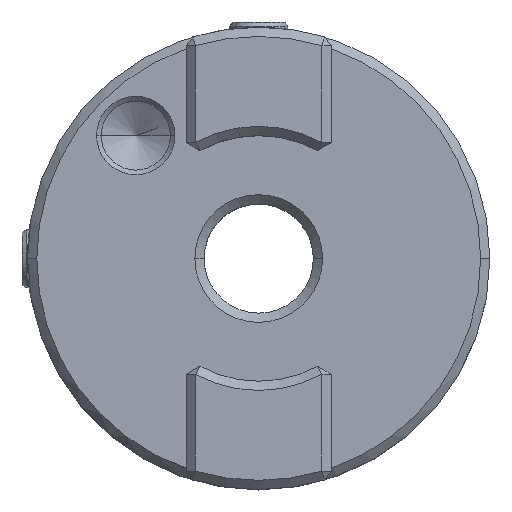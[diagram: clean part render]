
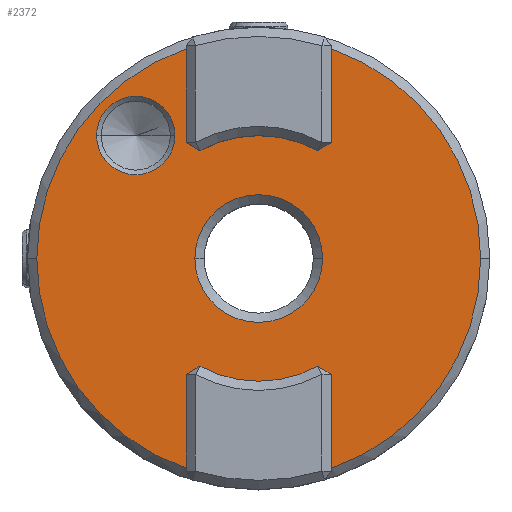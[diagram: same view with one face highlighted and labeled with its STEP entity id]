
A CAD part, top view. The second image highlights one B-rep face of the part: STEP entity #2372.
In plain terms, the highlighted planar face has unit normal (0, 0, 1).
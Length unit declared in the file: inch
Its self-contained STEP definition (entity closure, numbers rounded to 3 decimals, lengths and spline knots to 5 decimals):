
#1151=CARTESIAN_POINT('',(0.,0.,0.39));
#1152=DIRECTION('',(0.,0.,-1.));
#1153=DIRECTION('',(1.,0.,0.));
#1154=AXIS2_PLACEMENT_3D('',#1151,#1152,#1153);
#1160=CARTESIAN_POINT('',(0.,0.,0.39));
#1161=DIRECTION('',(0.,0.,-1.));
#1162=DIRECTION('',(-1.,0.,0.));
#1163=AXIS2_PLACEMENT_3D('',#1160,#1161,#1162);
#1169=DIRECTION('',(-0.86,-0.511,0.));
#1170=VECTOR('',#1169,0.03439);
#1171=CARTESIAN_POINT('',(0.15675,0.25079,0.39));
#1172=LINE('',#1171,#1170);
#1173=DIRECTION('',(0.,-1.,0.));
#1174=VECTOR('',#1173,0.20289);
#1175=CARTESIAN_POINT('',(0.15675,0.45368,0.39));
#1176=LINE('',#1175,#1174);
#1177=CARTESIAN_POINT('',(0.,0.,0.39));
#1178=DIRECTION('',(0.,0.,1.));
#1179=DIRECTION('',(0.327,-0.945,0.));
#1180=AXIS2_PLACEMENT_3D('',#1177,#1178,#1179);
#1182=DIRECTION('',(0.,-1.,0.));
#1183=VECTOR('',#1182,0.20289);
#1184=CARTESIAN_POINT('',(0.15675,-0.25079,0.39));
#1185=LINE('',#1184,#1183);
#1186=DIRECTION('',(0.86,-0.511,0.));
#1187=VECTOR('',#1186,0.03439);
#1188=CARTESIAN_POINT('',(0.12718,-0.23323,0.39));
#1189=LINE('',#1188,#1187);
#1190=CARTESIAN_POINT('',(0.,0.,0.39));
#1191=DIRECTION('',(0.,0.,1.));
#1192=DIRECTION('',(-0.479,-0.878,0.));
#1193=AXIS2_PLACEMENT_3D('',#1190,#1191,#1192);
#1195=DIRECTION('',(0.86,0.511,0.));
#1196=VECTOR('',#1195,0.03439);
#1197=CARTESIAN_POINT('',(-0.15675,-0.25079,0.39));
#1198=LINE('',#1197,#1196);
#1199=DIRECTION('',(0.,1.,0.));
#1200=VECTOR('',#1199,0.20289);
#1201=CARTESIAN_POINT('',(-0.15675,-0.45368,0.39));
#1202=LINE('',#1201,#1200);
#1203=CARTESIAN_POINT('',(0.,0.,0.39));
#1204=DIRECTION('',(0.,0.,1.));
#1205=DIRECTION('',(-1.,0.,0.));
#1206=AXIS2_PLACEMENT_3D('',#1203,#1204,#1205);
#1208=DIRECTION('',(0.,1.,0.));
#1209=VECTOR('',#1208,0.20289);
#1210=CARTESIAN_POINT('',(-0.15675,0.25079,0.39));
#1211=LINE('',#1210,#1209);
#1212=DIRECTION('',(-0.86,0.511,0.));
#1213=VECTOR('',#1212,0.03439);
#1214=CARTESIAN_POINT('',(-0.12718,0.23323,0.39));
#1215=LINE('',#1214,#1213);
#1216=CARTESIAN_POINT('',(0.,0.,0.39));
#1217=DIRECTION('',(0.,0.,1.));
#1218=DIRECTION('',(0.479,0.878,0.));
#1219=AXIS2_PLACEMENT_3D('',#1216,#1217,#1218);
#1221=CARTESIAN_POINT('',(-0.266,0.266,0.39));
#1222=DIRECTION('',(0.,0.,-1.));
#1223=DIRECTION('',(-1.,0.,0.));
#1224=AXIS2_PLACEMENT_3D('',#1221,#1222,#1223);
#1226=CARTESIAN_POINT('',(-0.266,0.266,0.39));
#1227=DIRECTION('',(0.,0.,-1.));
#1228=DIRECTION('',(1.,0.,0.));
#1229=AXIS2_PLACEMENT_3D('',#1226,#1227,#1228);
#1397=CARTESIAN_POINT('',(0.,0.,0.39));
#1398=DIRECTION('',(0.,0.,1.));
#1399=DIRECTION('',(1.,0.,0.));
#1400=AXIS2_PLACEMENT_3D('',#1397,#1398,#1399);
#1407=CARTESIAN_POINT('',(0.,0.,0.39));
#1408=DIRECTION('',(0.,0.,1.));
#1409=DIRECTION('',(-0.327,0.945,0.));
#1410=AXIS2_PLACEMENT_3D('',#1407,#1408,#1409);
#1960=CARTESIAN_POINT('',(0.1381,0.,0.39));
#1961=VERTEX_POINT('',#1960);
#1962=CARTESIAN_POINT('',(-0.1381,0.,0.39));
#1963=VERTEX_POINT('',#1962);
#1964=CARTESIAN_POINT('',(0.15675,0.25079,0.39));
#1965=CARTESIAN_POINT('',(0.12718,0.23323,0.39));
#1966=VERTEX_POINT('',#1964);
#1967=VERTEX_POINT('',#1965);
#1968=CARTESIAN_POINT('',(0.15675,0.45368,0.39));
#1969=VERTEX_POINT('',#1968);
#1970=CARTESIAN_POINT('',(0.48,0.,0.39));
#1971=VERTEX_POINT('',#1970);
#1972=CARTESIAN_POINT('',(0.15675,-0.45368,0.39));
#1973=VERTEX_POINT('',#1972);
#1974=CARTESIAN_POINT('',(0.15675,-0.25079,0.39));
#1975=VERTEX_POINT('',#1974);
#1976=CARTESIAN_POINT('',(0.12718,-0.23323,0.39));
#1977=VERTEX_POINT('',#1976);
#1978=CARTESIAN_POINT('',(-0.12718,-0.23323,0.39));
#1979=VERTEX_POINT('',#1978);
#1980=CARTESIAN_POINT('',(-0.15675,-0.25079,0.39));
#1981=VERTEX_POINT('',#1980);
#1982=CARTESIAN_POINT('',(-0.15675,-0.45368,0.39));
#1983=VERTEX_POINT('',#1982);
#1984=CARTESIAN_POINT('',(-0.48,0.,0.39));
#1985=VERTEX_POINT('',#1984);
#1986=CARTESIAN_POINT('',(-0.15675,0.45368,0.39));
#1987=VERTEX_POINT('',#1986);
#1988=CARTESIAN_POINT('',(-0.15675,0.25079,0.39));
#1989=VERTEX_POINT('',#1988);
#1990=CARTESIAN_POINT('',(-0.12718,0.23323,0.39));
#1991=VERTEX_POINT('',#1990);
#1992=CARTESIAN_POINT('',(-0.35075,0.266,0.39));
#1993=CARTESIAN_POINT('',(-0.18125,0.266,0.39));
#1994=VERTEX_POINT('',#1992);
#1995=VERTEX_POINT('',#1993);
#2327=CARTESIAN_POINT('',(0.,0.,0.39));
#2328=DIRECTION('',(0.,0.,1.));
#2329=DIRECTION('',(1.,0.,0.));
#2330=AXIS2_PLACEMENT_3D('',#2327,#2328,#2329);
#2331=PLANE('',#2330);
#2333=ORIENTED_EDGE('',*,*,#2332,.F.);
#2335=ORIENTED_EDGE('',*,*,#2334,.F.);
#2337=ORIENTED_EDGE('',*,*,#2336,.F.);
#2339=ORIENTED_EDGE('',*,*,#2338,.F.);
#2341=ORIENTED_EDGE('',*,*,#2340,.F.);
#2343=ORIENTED_EDGE('',*,*,#2342,.F.);
#2345=ORIENTED_EDGE('',*,*,#2344,.F.);
#2347=ORIENTED_EDGE('',*,*,#2346,.F.);
#2349=ORIENTED_EDGE('',*,*,#2348,.F.);
#2351=ORIENTED_EDGE('',*,*,#2350,.F.);
#2353=ORIENTED_EDGE('',*,*,#2352,.F.);
#2355=ORIENTED_EDGE('',*,*,#2354,.F.);
#2357=ORIENTED_EDGE('',*,*,#2356,.F.);
#2359=ORIENTED_EDGE('',*,*,#2358,.F.);
#2360=EDGE_LOOP('',(#2333,#2335,#2337,#2339,#2341,#2343,#2345,#2347,#2349,#2351,
#2353,#2355,#2357,#2359));
#2361=FACE_OUTER_BOUND('',#2360,.F.);
#2363=ORIENTED_EDGE('',*,*,#2362,.F.);
#2365=ORIENTED_EDGE('',*,*,#2364,.F.);
#2366=EDGE_LOOP('',(#2363,#2365));
#2367=FACE_BOUND('',#2366,.F.);
#2368=ORIENTED_EDGE('',*,*,#2312,.F.);
#2369=ORIENTED_EDGE('',*,*,#2292,.F.);
#2370=EDGE_LOOP('',(#2368,#2369));
#2371=FACE_BOUND('',#2370,.F.);
#1155=CIRCLE('',#1154,0.1381);
#1164=CIRCLE('',#1163,0.1381);
#1181=CIRCLE('',#1180,0.48);
#1194=CIRCLE('',#1193,0.26565);
#1207=CIRCLE('',#1206,0.48);
#1220=CIRCLE('',#1219,0.26565);
#1225=CIRCLE('',#1224,0.08475);
#1230=CIRCLE('',#1229,0.08475);
#1401=CIRCLE('',#1400,0.48);
#1411=CIRCLE('',#1410,0.48);
#2292=EDGE_CURVE('',#1961,#1963,#1155,.T.);
#2312=EDGE_CURVE('',#1963,#1961,#1164,.T.);
#2332=EDGE_CURVE('',#1966,#1967,#1172,.T.);
#2334=EDGE_CURVE('',#1969,#1966,#1176,.T.);
#2336=EDGE_CURVE('',#1971,#1969,#1401,.T.);
#2338=EDGE_CURVE('',#1973,#1971,#1181,.T.);
#2340=EDGE_CURVE('',#1975,#1973,#1185,.T.);
#2342=EDGE_CURVE('',#1977,#1975,#1189,.T.);
#2344=EDGE_CURVE('',#1979,#1977,#1194,.T.);
#2346=EDGE_CURVE('',#1981,#1979,#1198,.T.);
#2348=EDGE_CURVE('',#1983,#1981,#1202,.T.);
#2350=EDGE_CURVE('',#1985,#1983,#1207,.T.);
#2352=EDGE_CURVE('',#1987,#1985,#1411,.T.);
#2354=EDGE_CURVE('',#1989,#1987,#1211,.T.);
#2356=EDGE_CURVE('',#1991,#1989,#1215,.T.);
#2358=EDGE_CURVE('',#1967,#1991,#1220,.T.);
#2362=EDGE_CURVE('',#1994,#1995,#1225,.T.);
#2364=EDGE_CURVE('',#1995,#1994,#1230,.T.);
#2372=ADVANCED_FACE('',(#2361,#2367,#2371),#2331,.T.);
